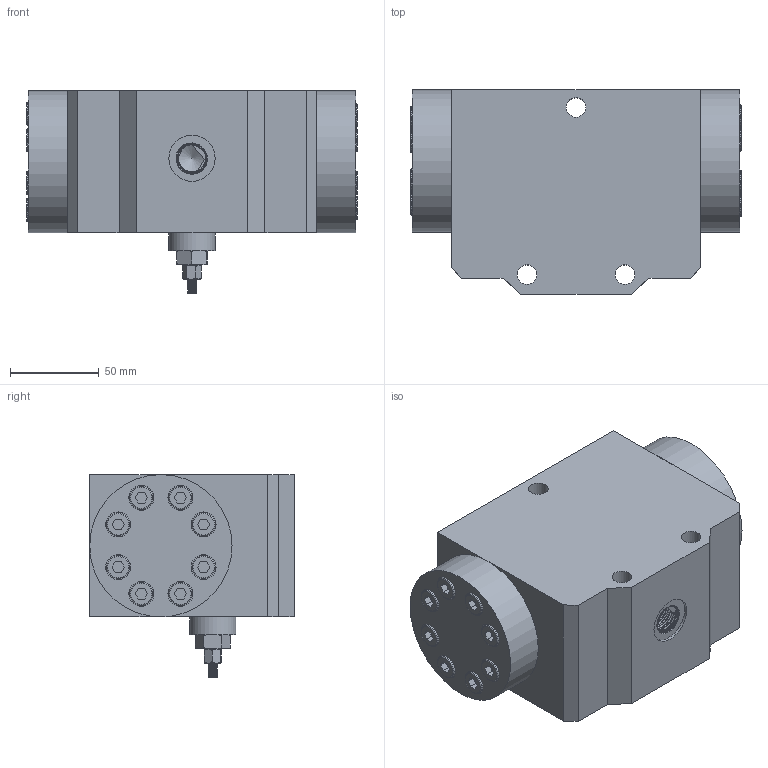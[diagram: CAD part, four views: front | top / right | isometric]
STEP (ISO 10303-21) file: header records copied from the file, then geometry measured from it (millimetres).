
FILE_DESCRIPTION(/* description */ (''),/* implementation_level */ '2;1');
FILE_NAME(/* name */ '3FJLk-L2-16-X.stp',/* time_stamp */ '2023-05-05T13:42:17+08:00',/* author */ (''),/* organization */ (''),/* preprocessor_version */ 'ST-DEVELOPER v16.7',/* originating_system */ 'SIEMENS PLM Software NX 12.0',/* authorisation */ '');
FILE_SCHEMA (('AUTOMOTIVE_DESIGN { 1 0 10303 214 3 1 1 1 }'));
Length unit declared in the file: millimetre
Products named in the file (1): 6-1
Bounding box: 186 x 115 x 114 mm (x, y, z)
Volume: 1417400 mm3; surface area: 167888.5 mm2
Topology: 23 solids, 23 shells, 488 faces, 1222 edges, 815 vertices
Faces by surface type: plane 283, cylinder 129, cone 35, torus 30, bspline 11
Full cylindrical faces by diameter (mm): 6.8 x16, 8 x16, 9 x16, 11 x3, 13 x16, 14 x16, 23 x2, 26 x2, 80 x2
Entity records: 33883 total; most frequent: CARTESIAN_POINT 23058, DIRECTION 2164, ORIENTED_EDGE 1918, EDGE_CURVE 959, AXIS2_PLACEMENT_3D 810, EDGE_LOOP 751, VERTEX_POINT 729, LINE 544
